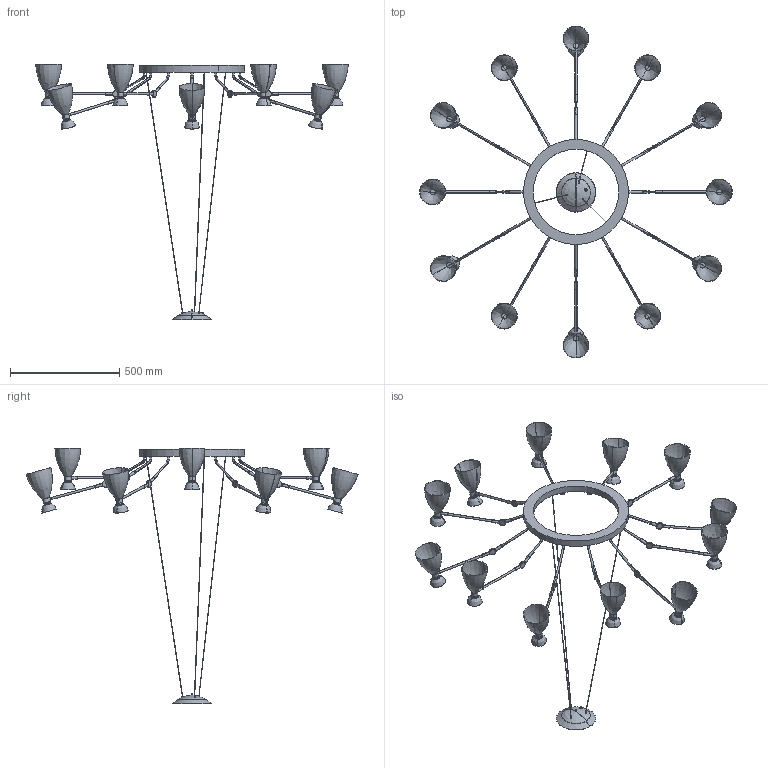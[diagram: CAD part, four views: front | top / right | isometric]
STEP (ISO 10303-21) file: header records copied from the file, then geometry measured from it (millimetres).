
FILE_DESCRIPTION(/* description */ (''),/* implementation_level */ '2;1');
FILE_NAME(/* name */ 'C:\Users\Franco Sartori E\Documents\FARO\DUPLICADO\Modelos\01_Digitalizados\PRIORIZACION 2D\1_RETRO\03_Publicación\20047.stp',/* time_stamp */ '2020-12-23T11:29:26+01:00',/* author */ ('Franco Sartori E'),/* organization */ (''),/* preprocessor_version */ 'ST-DEVELOPER v18.1',/* originating_system */ 'AutoCAD Mechanical',/* authorisation */ '');
FILE_SCHEMA (('AUTOMOTIVE_DESIGN { 1 0 10303 214 3 1 1 }'));
Length unit declared in the file: millimetre
Products named in the file (3): Product; 20047_20048_20051_C - SP-510042-_3D_; 20047_20048_20051_L - LAMP-510648-_3D_
Assembly tree (2 placements, depth 2):
  Product
    20047_20048_20051_C - SP-510042-_3D_
    20047_20048_20051_L - LAMP-510648-_3D_
Bounding box: 1427.94 x 1516.82 x 1169.47 mm (x, y, z)
Volume: 3818283.9 mm3; surface area: 2900140 mm2
Topology: 129 solids, 132 shells, 1180 faces, 2197 edges, 1247 vertices
Faces by surface type: plane 554, cylinder 350, bspline 198, torus 74, sphere 2, cone 2
Entity records: 36781 total; most frequent: CARTESIAN_POINT 14281, DIRECTION 4725, ORIENTED_EDGE 4378, EDGE_CURVE 2195, AXIS2_PLACEMENT_3D 1953, VERTEX_POINT 1247, EDGE_LOOP 1188, FACE_OUTER_BOUND 1180
